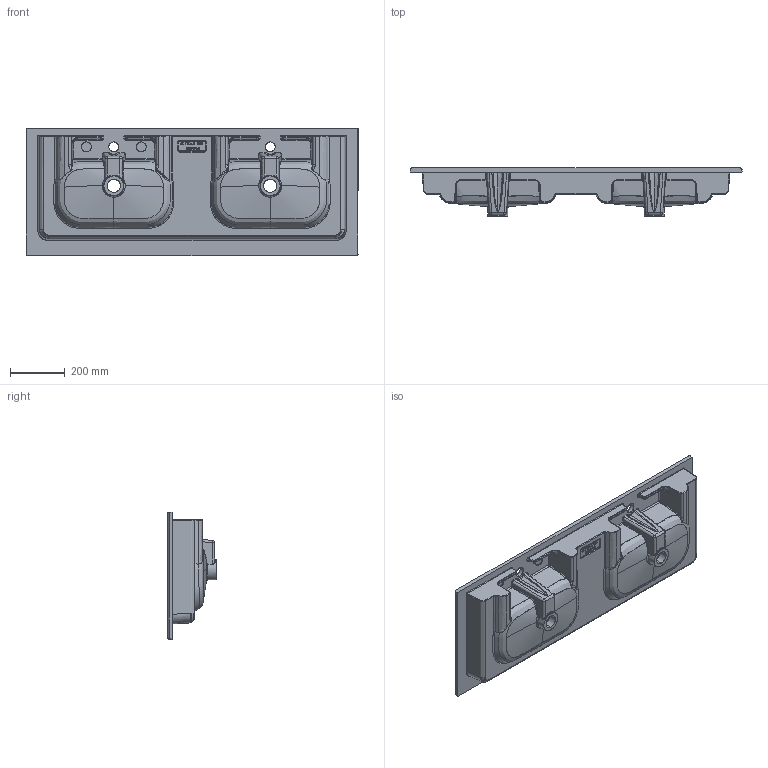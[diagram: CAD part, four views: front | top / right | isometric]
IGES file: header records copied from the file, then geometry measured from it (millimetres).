
Start section: SolidWorks IGES file using analytic representation for surfaces
Global section: file name: C:\schede rappr\qubo\qubo 121 2 vasche prof. 465\qubo square 121 2 v.art.879-465    .IGS; native system: SolidWorks 2011; preprocessor: SolidWorks 2011; author: fabioabballe; date: 140403.083729; units: millimetre
Bounding box: 1210 x 175 x 465 mm (x, y, z)
Surface area: 1715364.5 mm2 (no closed solid volume)
Topology: 0 solids, 0 shells, 555 faces, 11141 edges, 11131 vertices
Faces by surface type: bspline 413, revolution 142
